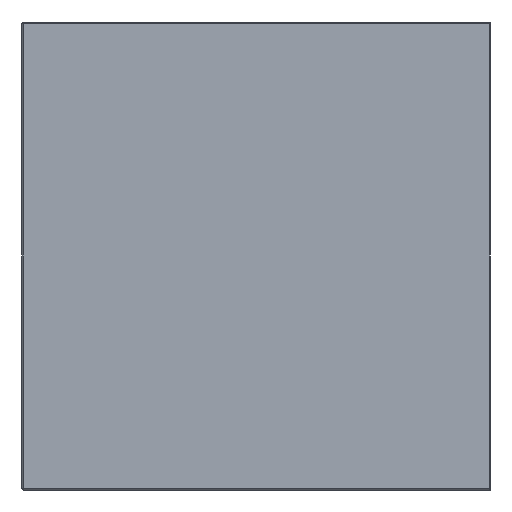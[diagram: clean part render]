
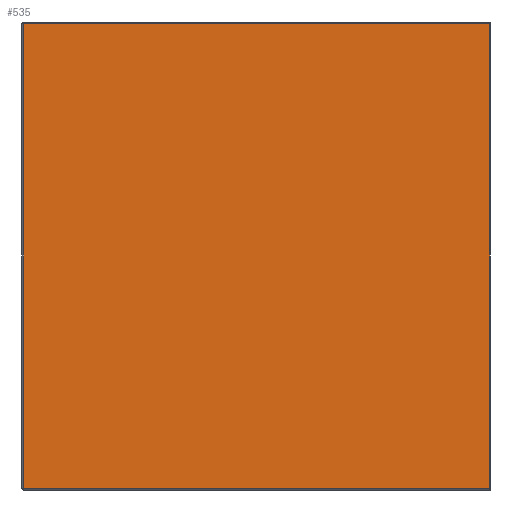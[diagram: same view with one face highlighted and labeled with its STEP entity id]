
A CAD part, left-side view. The second image highlights one B-rep face of the part: STEP entity #535.
In plain terms, the highlighted planar face has unit normal (-1, 0, 0).
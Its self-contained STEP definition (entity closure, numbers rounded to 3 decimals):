
#37=PLANE('',#584);
#41=LINE('',#763,#97);
#48=LINE('',#793,#104);
#52=LINE('',#799,#108);
#57=LINE('',#808,#113);
#97=VECTOR('',#614,299.);
#104=VECTOR('',#647,299.);
#108=VECTOR('',#655,298.);
#113=VECTOR('',#668,298.);
#188=FACE_OUTER_BOUND('',#224,.T.);
#224=EDGE_LOOP('',(#494,#495,#496,#497));
#249=VERTEX_POINT('',#756);
#251=VERTEX_POINT('',#761);
#257=VERTEX_POINT('',#782);
#260=VERTEX_POINT('',#789);
#296=EDGE_CURVE('',#251,#249,#41,.T.);
#311=EDGE_CURVE('',#257,#260,#48,.T.);
#315=EDGE_CURVE('',#249,#257,#52,.T.);
#320=EDGE_CURVE('',#251,#260,#57,.T.);
#494=ORIENTED_EDGE('',*,*,#296,.F.);
#495=ORIENTED_EDGE('',*,*,#320,.T.);
#496=ORIENTED_EDGE('',*,*,#311,.F.);
#497=ORIENTED_EDGE('',*,*,#315,.F.);
#535=ADVANCED_FACE('',(#188),#37,.T.);
#584=AXIS2_PLACEMENT_3D('',#884,#734,#735);
#614=DIRECTION('',(0.,1.,0.));
#647=DIRECTION('',(0.,-1.,0.));
#655=DIRECTION('',(0.,0.,1.));
#668=DIRECTION('',(0.,0.,1.));
#734=DIRECTION('center_axis',(-1.,0.,0.));
#735=DIRECTION('ref_axis',(0.,0.,1.));
#756=CARTESIAN_POINT('',(0.,299.,-299.));
#761=CARTESIAN_POINT('',(0.,0.,-299.));
#763=CARTESIAN_POINT('',(0.,0.,-299.));
#782=CARTESIAN_POINT('',(0.,299.,-1.));
#789=CARTESIAN_POINT('',(0.,0.,-1.));
#793=CARTESIAN_POINT('',(0.,0.,-1.));
#799=CARTESIAN_POINT('',(0.,299.,-225.));
#808=CARTESIAN_POINT('',(0.,0.,-300.));
#884=CARTESIAN_POINT('Origin',(0.,0.,-300.));
